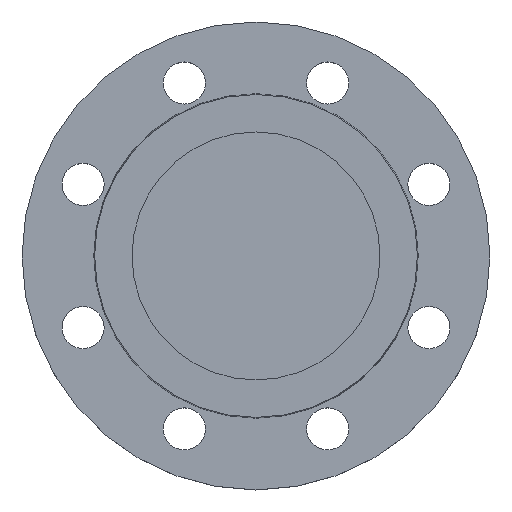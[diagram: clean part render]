
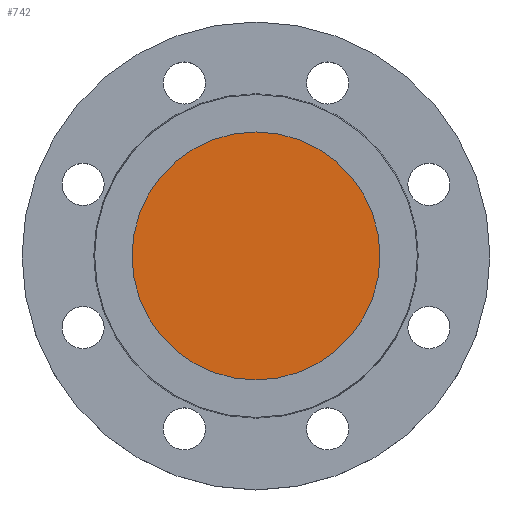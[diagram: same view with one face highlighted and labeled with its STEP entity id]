
A CAD part, top view. The second image highlights one B-rep face of the part: STEP entity #742.
In plain terms, the highlighted planar face has unit normal (0, 0, 1).
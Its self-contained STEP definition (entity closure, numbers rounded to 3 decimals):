
#9 = EDGE_CURVE ( 'NONE', #641, #634, #33, .T. ) ;
#33 = CIRCLE ( 'NONE', #46, 53. ) ;
#46 = AXIS2_PLACEMENT_3D ( 'NONE', #69, #85, #84 ) ;
#69 = CARTESIAN_POINT ( 'NONE',  ( 0., 0., -4.5 ) ) ;
#84 = DIRECTION ( 'NONE',  ( -1., 0., 0. ) ) ;
#85 = DIRECTION ( 'NONE',  ( 0., 0., -1. ) ) ;
#127 = DIRECTION ( 'NONE',  ( 1., 0., 0. ) ) ;
#128 = DIRECTION ( 'NONE',  ( 0., 0., 1. ) ) ;
#129 = CARTESIAN_POINT ( 'NONE',  ( 0., 0., -4.5 ) ) ;
#130 = PLANE ( 'NONE',  #578 ) ;
#132 = FACE_OUTER_BOUND ( 'NONE', #861, .T. ) ;
#212 = CARTESIAN_POINT ( 'NONE',  ( -53., 0., -4.5 ) ) ;
#219 = CARTESIAN_POINT ( 'NONE',  ( 53., 0., -4.5 ) ) ;
#324 = DIRECTION ( 'NONE',  ( 0., 0., -1. ) ) ;
#325 = DIRECTION ( 'NONE',  ( -1., 0., 0. ) ) ;
#326 = CARTESIAN_POINT ( 'NONE',  ( 0., 0., -4.5 ) ) ;
#406 = EDGE_CURVE ( 'NONE', #634, #641, #525, .T. ) ;
#525 = CIRCLE ( 'NONE', #531, 53. ) ;
#531 = AXIS2_PLACEMENT_3D ( 'NONE', #326, #324, #325 ) ;
#578 = AXIS2_PLACEMENT_3D ( 'NONE', #129, #128, #127 ) ;
#634 = VERTEX_POINT ( 'NONE', #219 ) ;
#641 = VERTEX_POINT ( 'NONE', #212 ) ;
#742 = ADVANCED_FACE ( 'NONE', ( #132 ), #130, .T. ) ;
#783 = ORIENTED_EDGE ( 'NONE', *, *, #9, .F. ) ;
#784 = ORIENTED_EDGE ( 'NONE', *, *, #406, .F. ) ;
#861 = EDGE_LOOP ( 'NONE', ( #783, #784 ) ) ;
